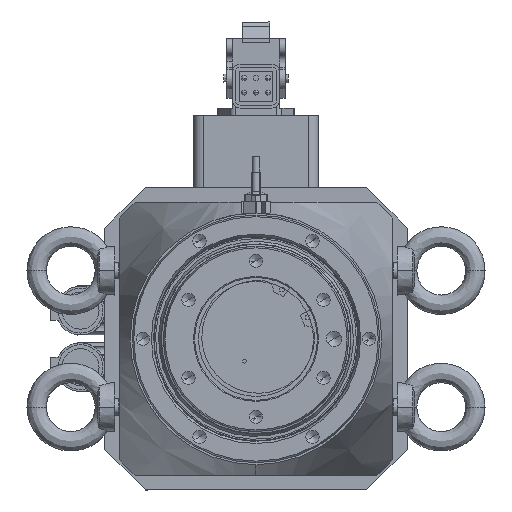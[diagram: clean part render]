
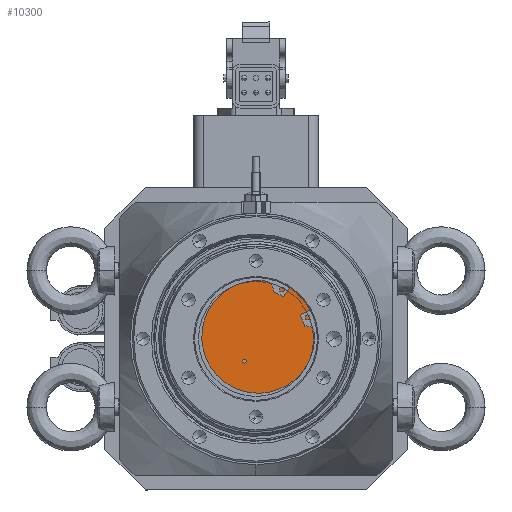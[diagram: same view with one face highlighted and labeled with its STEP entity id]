
A CAD part, front view. The second image highlights one B-rep face of the part: STEP entity #10300.
In plain terms, the highlighted planar face has unit normal (0, -1, 0).
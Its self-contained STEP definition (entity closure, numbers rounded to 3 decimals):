
#41 = CARTESIAN_POINT ( 'NONE',  ( -36.22, -247.879, -47.75 ) ) ;
#4636 = CIRCLE ( 'NONE', #7820, 1. ) ;
#7689 = CARTESIAN_POINT ( 'NONE',  ( -68.541, -247.879, -74.425 ) ) ;
#7703 = AXIS2_PLACEMENT_3D ( 'NONE', #20667, #39419, #20928 ) ;
#7820 = AXIS2_PLACEMENT_3D ( 'NONE', #30082, #20772, #33321 ) ;
#8520 = DIRECTION ( 'NONE',  ( 0., 1., 0. ) ) ;
#9430 = EDGE_CURVE ( 'NONE', #19142, #21349, #39286, .T. ) ;
#10300 = ADVANCED_FACE ( 'NONE', ( #28559, #19856 ), #17618, .F. ) ;
#10416 = DIRECTION ( 'NONE',  ( 0.866, 0., 0.5 ) ) ;
#12294 = VERTEX_POINT ( 'NONE', #41 ) ;
#13830 = DIRECTION ( 'NONE',  ( 0.866, 0., 0.5 ) ) ;
#13999 = CARTESIAN_POINT ( 'NONE',  ( -90.78, -247.879, -79.25 ) ) ;
#14650 = CARTESIAN_POINT ( 'NONE',  ( -63.5, -247.879, -63.5 ) ) ;
#15111 = ORIENTED_EDGE ( 'NONE', *, *, #36894, .T. ) ;
#17618 = PLANE ( 'NONE',  #27748 ) ;
#18467 = CARTESIAN_POINT ( 'NONE',  ( -70.273, -247.879, -75.425 ) ) ;
#19142 = VERTEX_POINT ( 'NONE', #7689 ) ;
#19856 = FACE_BOUND ( 'NONE', #25266, .T. ) ;
#20667 = CARTESIAN_POINT ( 'NONE',  ( -63.5, -247.879, -63.5 ) ) ;
#20772 = DIRECTION ( 'NONE',  ( 0., 1., 0. ) ) ;
#20928 = DIRECTION ( 'NONE',  ( 0.866, 0., 0.5 ) ) ;
#21349 = VERTEX_POINT ( 'NONE', #18467 ) ;
#21466 = EDGE_CURVE ( 'NONE', #12294, #29158, #29399, .T. ) ;
#21670 = CIRCLE ( 'NONE', #7703, 31.5 ) ;
#24448 = DIRECTION ( 'NONE',  ( 0.866, 0., 0.5 ) ) ;
#25249 = ORIENTED_EDGE ( 'NONE', *, *, #21466, .F. ) ;
#25266 = EDGE_LOOP ( 'NONE', ( #15111, #29181 ) ) ;
#26085 = CARTESIAN_POINT ( 'NONE',  ( -63.5, -247.879, -63.5 ) ) ;
#27544 = AXIS2_PLACEMENT_3D ( 'NONE', #26085, #35569, #10416 ) ;
#27748 = AXIS2_PLACEMENT_3D ( 'NONE', #14650, #8520, #24448 ) ;
#28559 = FACE_OUTER_BOUND ( 'NONE', #34186, .T. ) ;
#29158 = VERTEX_POINT ( 'NONE', #13999 ) ;
#29181 = ORIENTED_EDGE ( 'NONE', *, *, #9430, .T. ) ;
#29399 = CIRCLE ( 'NONE', #27544, 31.5 ) ;
#30082 = CARTESIAN_POINT ( 'NONE',  ( -69.407, -247.879, -74.925 ) ) ;
#32692 = CARTESIAN_POINT ( 'NONE',  ( -69.407, -247.879, -74.925 ) ) ;
#33036 = EDGE_CURVE ( 'NONE', #29158, #12294, #21670, .T. ) ;
#33321 = DIRECTION ( 'NONE',  ( 0.866, 0., 0.5 ) ) ;
#34186 = EDGE_LOOP ( 'NONE', ( #34892, #25249 ) ) ;
#34892 = ORIENTED_EDGE ( 'NONE', *, *, #33036, .F. ) ;
#35569 = DIRECTION ( 'NONE',  ( 0., 1., 0. ) ) ;
#36894 = EDGE_CURVE ( 'NONE', #21349, #19142, #4636, .T. ) ;
#37813 = AXIS2_PLACEMENT_3D ( 'NONE', #32692, #38638, #13830 ) ;
#38638 = DIRECTION ( 'NONE',  ( 0., 1., 0. ) ) ;
#39286 = CIRCLE ( 'NONE', #37813, 1. ) ;
#39419 = DIRECTION ( 'NONE',  ( 0., 1., 0. ) ) ;
